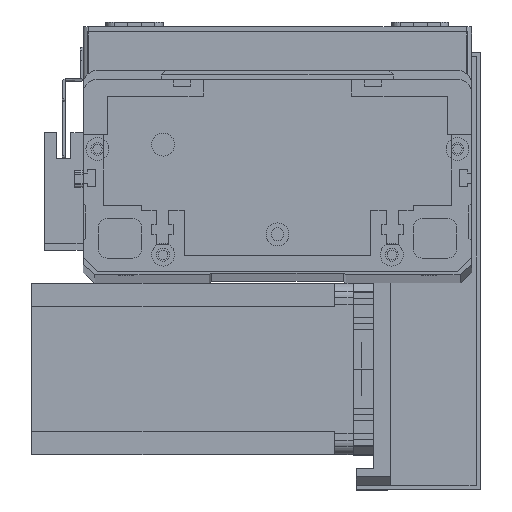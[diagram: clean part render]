
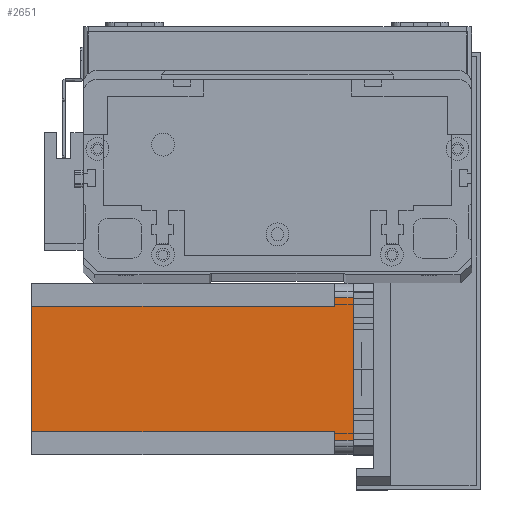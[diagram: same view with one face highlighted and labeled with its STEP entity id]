
A CAD part, top view. The second image highlights one B-rep face of the part: STEP entity #2651.
In plain terms, the highlighted planar face has unit normal (0, 0, 1) as drawn and (0, -1, 0) by its records, which use the part's own axes.
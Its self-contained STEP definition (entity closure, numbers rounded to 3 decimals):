
#504 = VERTEX_POINT ( 'NONE', #14929 ) ;
#637 = VERTEX_POINT ( 'NONE', #7921 ) ;
#917 = DIRECTION ( 'NONE',  ( -1., 0., 0. ) ) ;
#1057 = VERTEX_POINT ( 'NONE', #9455 ) ;
#2007 = LINE ( 'NONE', #13405, #20624 ) ;
#2651 = ADVANCED_FACE ( 'NONE', ( #25585 ), #21406, .T. ) ;
#3167 = CARTESIAN_POINT ( 'NONE',  ( 8., 0., -6.5 ) ) ;
#3273 = ORIENTED_EDGE ( 'NONE', *, *, #21534, .F. ) ;
#3571 = DIRECTION ( 'NONE',  ( 1., 0., 0. ) ) ;
#4064 = VECTOR ( 'NONE', #12328, 1000. ) ;
#4657 = EDGE_CURVE ( 'NONE', #637, #25892, #26262, .T. ) ;
#5364 = ORIENTED_EDGE ( 'NONE', *, *, #29573, .F. ) ;
#5480 = VECTOR ( 'NONE', #11382, 1000. ) ;
#6197 = EDGE_CURVE ( 'NONE', #1057, #25892, #2007, .T. ) ;
#7447 = CARTESIAN_POINT ( 'NONE',  ( 5., 0., 0. ) ) ;
#7611 = CARTESIAN_POINT ( 'NONE',  ( 52., 0., -112.5 ) ) ;
#7727 = ORIENTED_EDGE ( 'NONE', *, *, #4657, .T. ) ;
#7921 = CARTESIAN_POINT ( 'NONE',  ( 8., 0., -112.5 ) ) ;
#9455 = CARTESIAN_POINT ( 'NONE',  ( 52., 0., -6.5 ) ) ;
#9552 = VERTEX_POINT ( 'NONE', #7447 ) ;
#10305 = LINE ( 'NONE', #21511, #4064 ) ;
#10376 = LINE ( 'NONE', #3167, #21235 ) ;
#11072 = CARTESIAN_POINT ( 'NONE',  ( 55., 0., 0. ) ) ;
#11382 = DIRECTION ( 'NONE',  ( 1., 0., 0. ) ) ;
#12293 = ORIENTED_EDGE ( 'NONE', *, *, #14690, .T. ) ;
#12328 = DIRECTION ( 'NONE',  ( 0., 0., 1. ) ) ;
#12615 = ORIENTED_EDGE ( 'NONE', *, *, #27866, .T. ) ;
#13327 = CARTESIAN_POINT ( 'NONE',  ( 55., 0., -112.5 ) ) ;
#13405 = CARTESIAN_POINT ( 'NONE',  ( 52., 0., -112.5 ) ) ;
#14182 = VECTOR ( 'NONE', #27020, 1000. ) ;
#14690 = EDGE_CURVE ( 'NONE', #1057, #14918, #21816, .T. ) ;
#14918 = VERTEX_POINT ( 'NONE', #18454 ) ;
#14929 = CARTESIAN_POINT ( 'NONE',  ( 5., 0., -6.5 ) ) ;
#15202 = DIRECTION ( 'NONE',  ( 0., 0., -1. ) ) ;
#15244 = ORIENTED_EDGE ( 'NONE', *, *, #28668, .F. ) ;
#16463 = VECTOR ( 'NONE', #3571, 1000. ) ;
#17531 = VERTEX_POINT ( 'NONE', #18542 ) ;
#18454 = CARTESIAN_POINT ( 'NONE',  ( 55., 0., -6.5 ) ) ;
#18542 = CARTESIAN_POINT ( 'NONE',  ( 8., 0., -6.5 ) ) ;
#19289 = ORIENTED_EDGE ( 'NONE', *, *, #6197, .F. ) ;
#19889 = CARTESIAN_POINT ( 'NONE',  ( 52., 0., -6.5 ) ) ;
#20307 = VECTOR ( 'NONE', #23031, 1000. ) ;
#20310 = LINE ( 'NONE', #13327, #14182 ) ;
#20624 = VECTOR ( 'NONE', #24798, 1000. ) ;
#20848 = DIRECTION ( 'NONE',  ( 0., 0., -1. ) ) ;
#21133 = DIRECTION ( 'NONE',  ( 0., -1., 0. ) ) ;
#21223 = VECTOR ( 'NONE', #15202, 1000. ) ;
#21235 = VECTOR ( 'NONE', #917, 1000. ) ;
#21312 = CARTESIAN_POINT ( 'NONE',  ( 0., 0., -112.5 ) ) ;
#21406 = PLANE ( 'NONE',  #21587 ) ;
#21511 = CARTESIAN_POINT ( 'NONE',  ( 8., 0., -112.5 ) ) ;
#21534 = EDGE_CURVE ( 'NONE', #17531, #504, #10376, .T. ) ;
#21587 = AXIS2_PLACEMENT_3D ( 'NONE', #21312, #21133, #20848 ) ;
#21816 = LINE ( 'NONE', #19889, #16463 ) ;
#21989 = CARTESIAN_POINT ( 'NONE',  ( 5., 0., -112.5 ) ) ;
#22735 = ORIENTED_EDGE ( 'NONE', *, *, #25405, .T. ) ;
#23031 = DIRECTION ( 'NONE',  ( 1., 0., 0. ) ) ;
#23920 = LINE ( 'NONE', #29557, #5480 ) ;
#24029 = CARTESIAN_POINT ( 'NONE',  ( 0., 0., -112.5 ) ) ;
#24798 = DIRECTION ( 'NONE',  ( 0., 0., -1. ) ) ;
#25405 = EDGE_CURVE ( 'NONE', #14918, #29491, #20310, .T. ) ;
#25585 = FACE_OUTER_BOUND ( 'NONE', #28600, .T. ) ;
#25892 = VERTEX_POINT ( 'NONE', #7611 ) ;
#26262 = LINE ( 'NONE', #24029, #20307 ) ;
#27020 = DIRECTION ( 'NONE',  ( 0., 0., 1. ) ) ;
#27160 = LINE ( 'NONE', #21989, #21223 ) ;
#27866 = EDGE_CURVE ( 'NONE', #9552, #504, #27160, .T. ) ;
#28600 = EDGE_LOOP ( 'NONE', ( #12293, #22735, #5364, #12615, #3273, #15244, #7727, #19289 ) ) ;
#28668 = EDGE_CURVE ( 'NONE', #637, #17531, #10305, .T. ) ;
#29491 = VERTEX_POINT ( 'NONE', #11072 ) ;
#29557 = CARTESIAN_POINT ( 'NONE',  ( 0., 0., 0. ) ) ;
#29573 = EDGE_CURVE ( 'NONE', #9552, #29491, #23920, .T. ) ;
